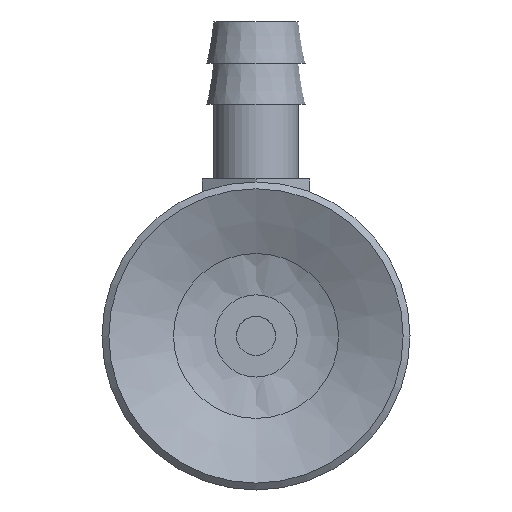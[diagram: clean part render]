
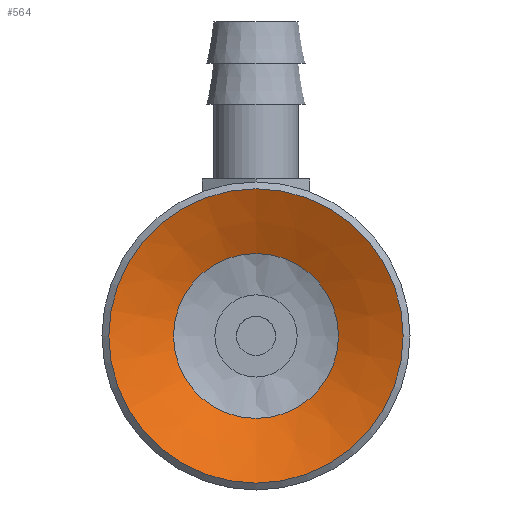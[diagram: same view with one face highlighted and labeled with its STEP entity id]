
A CAD part, front view. The second image highlights one B-rep face of the part: STEP entity #564.
In plain terms, the highlighted conical face has half-angle 65.056 degrees and reference radius 3.2 mm.
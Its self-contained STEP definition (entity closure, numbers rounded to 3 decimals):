
#564=ADVANCED_FACE('',(#856,#857),#858,.F.);
#856=FACE_BOUND('',#1191,.T.);
#857=FACE_OUTER_BOUND('',#1192,.T.);
#858=CONICAL_SURFACE('',#1193,3.2,1.135);
#1191=EDGE_LOOP('',(#2025));
#1192=EDGE_LOOP('',(#2026));
#1193=AXIS2_PLACEMENT_3D('',#2027,#2028,#2029);
#2025=ORIENTED_EDGE('',*,*,#2375,.T.);
#2026=ORIENTED_EDGE('',*,*,#2368,.T.);
#2027=CARTESIAN_POINT('',(0.0,7.896,0.0));
#2028=DIRECTION('',(-0.0,-1.0,0.));
#2029=DIRECTION('',(0.0,0.,-1.0));
#2368=EDGE_CURVE('',#2743,#2743,#2744,.T.);
#2375=EDGE_CURVE('',#2757,#2757,#2758,.T.);
#2743=VERTEX_POINT('',#3575);
#2744=CIRCLE('',#3576,7.5);
#2757=VERTEX_POINT('',#3589);
#2758=CIRCLE('',#3590,4.203);
#3575=CARTESIAN_POINT('',(0.0,5.896,-7.5));
#3576=AXIS2_PLACEMENT_3D('',#3948,#3949,#3950);
#3589=CARTESIAN_POINT('',(0.0,7.43,-4.203));
#3590=AXIS2_PLACEMENT_3D('',#3969,#3970,#3971);
#3948=CARTESIAN_POINT('',(0.0,5.896,0.0));
#3949=DIRECTION('',(0.0,-1.0,0.));
#3950=DIRECTION('',(0.0,0.,-1.0));
#3969=CARTESIAN_POINT('',(0.0,7.43,0.0));
#3970=DIRECTION('',(0.0,1.0,0.));
#3971=DIRECTION('',(0.0,0.,-1.0));
